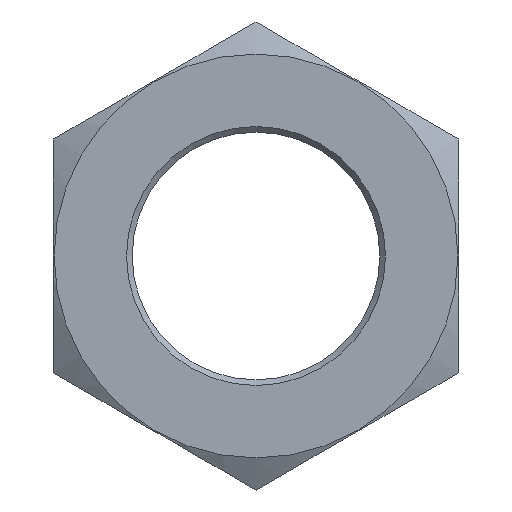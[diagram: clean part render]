
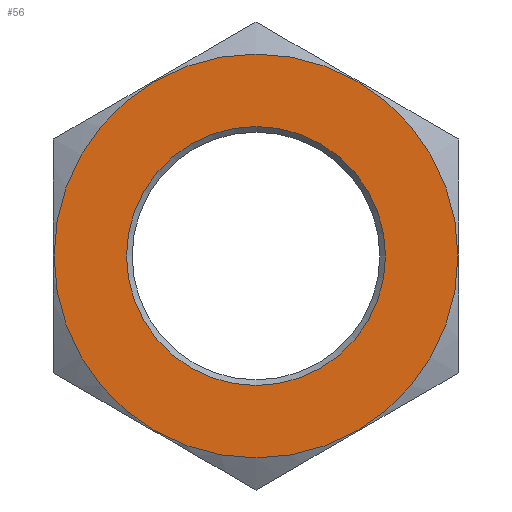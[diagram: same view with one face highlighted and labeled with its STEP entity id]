
A CAD part, left-side view. The second image highlights one B-rep face of the part: STEP entity #56.
In plain terms, the highlighted planar face has unit normal (-1, 0, 0).
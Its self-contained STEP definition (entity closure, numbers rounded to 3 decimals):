
#56 = ADVANCED_FACE( '', ( #117, #118 ), #119, .F. );
#117 = FACE_BOUND( '', #182, .T. );
#118 = FACE_OUTER_BOUND( '', #183, .T. );
#119 = PLANE( '', #184 );
#182 = EDGE_LOOP( '', ( #274 ) );
#183 = EDGE_LOOP( '', ( #275 ) );
#184 = AXIS2_PLACEMENT_3D( '', #276, #277, #278 );
#274 = ORIENTED_EDGE( '', *, *, #360, .T. );
#275 = ORIENTED_EDGE( '', *, *, #361, .T. );
#276 = CARTESIAN_POINT( '', ( -20., 0., 0. ) );
#277 = DIRECTION( '', ( 1., 0., 0. ) );
#278 = DIRECTION( '', ( 0., 1., 0. ) );
#360 = EDGE_CURVE( '', #420, #420, #421, .T. );
#361 = EDGE_CURVE( '', #422, #422, #423, .T. );
#420 = VERTEX_POINT( '', #620 );
#421 = CIRCLE( '', #621, 11.5 );
#422 = VERTEX_POINT( '', #622 );
#423 = CIRCLE( '', #623, 17.935 );
#620 = CARTESIAN_POINT( '', ( -20., 11.5, 0. ) );
#621 = AXIS2_PLACEMENT_3D( '', #684, #685, #686 );
#622 = CARTESIAN_POINT( '', ( -20., 0., 17.935 ) );
#623 = AXIS2_PLACEMENT_3D( '', #687, #688, #689 );
#684 = CARTESIAN_POINT( '', ( -20., 0., 0. ) );
#685 = DIRECTION( '', ( 1., 0., 0. ) );
#686 = DIRECTION( '', ( 0., 1., 0. ) );
#687 = CARTESIAN_POINT( '', ( -20., 0., 0. ) );
#688 = DIRECTION( '', ( -1., 0., 0. ) );
#689 = DIRECTION( '', ( 0., 0., 1. ) );
